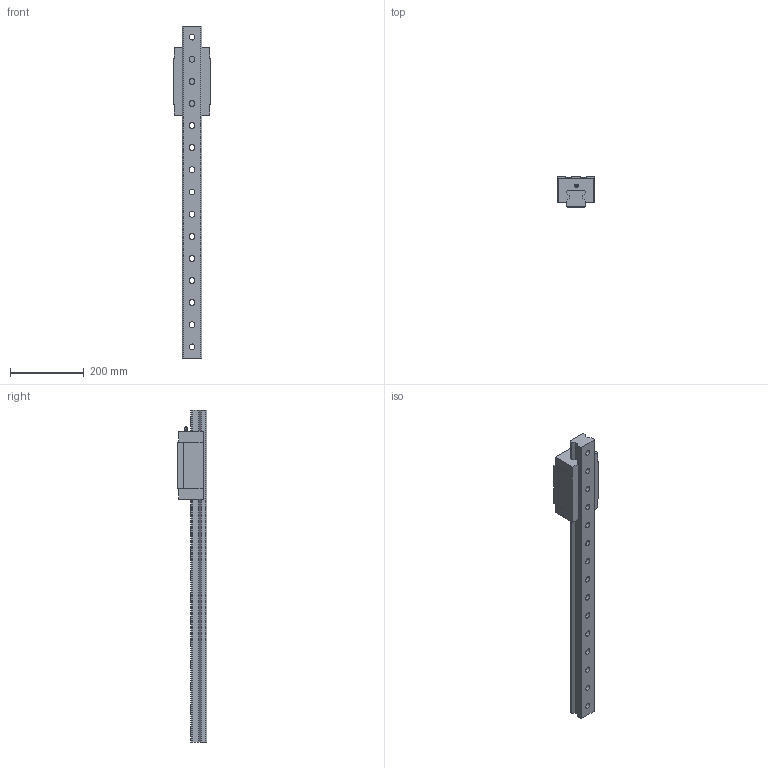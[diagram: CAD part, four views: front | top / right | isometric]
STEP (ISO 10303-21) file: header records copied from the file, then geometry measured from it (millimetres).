
FILE_DESCRIPTION(('STEP AP214'),'1');
FILE_NAME('D:/ModelConvertServices/Model.001/SVC.ACISConvertServices001/output/3e31b658-e3cb-41b9-8dd2-d1552c06e8d8/1_RGH55CA1R900ZOH.step','2022-07-22T10:25:10',(' '),(' '),'Spatial InterOp 3D',' ',' ');
FILE_SCHEMA(('automotive_design'));
Length unit declared in the file: millimetre
Products named in the file (2): 1; 2
Bounding box: 100 x 80 x 900 mm (x, y, z)
Volume: 2616487.6 mm3; surface area: 311122.1 mm2
Topology: 2 solids, 2 shells, 284 faces, 701 edges, 456 vertices
Faces by surface type: plane 140, cylinder 112, cone 30, sphere 2
Entity records: 10818 total; most frequent: CARTESIAN_POINT 1601, DIRECTION 1483, ORIENTED_EDGE 1398, EDGE_CURVE 699, AXIS2_PLACEMENT_3D 546, VERTEX_POINT 456, LINE 391, VECTOR 391
